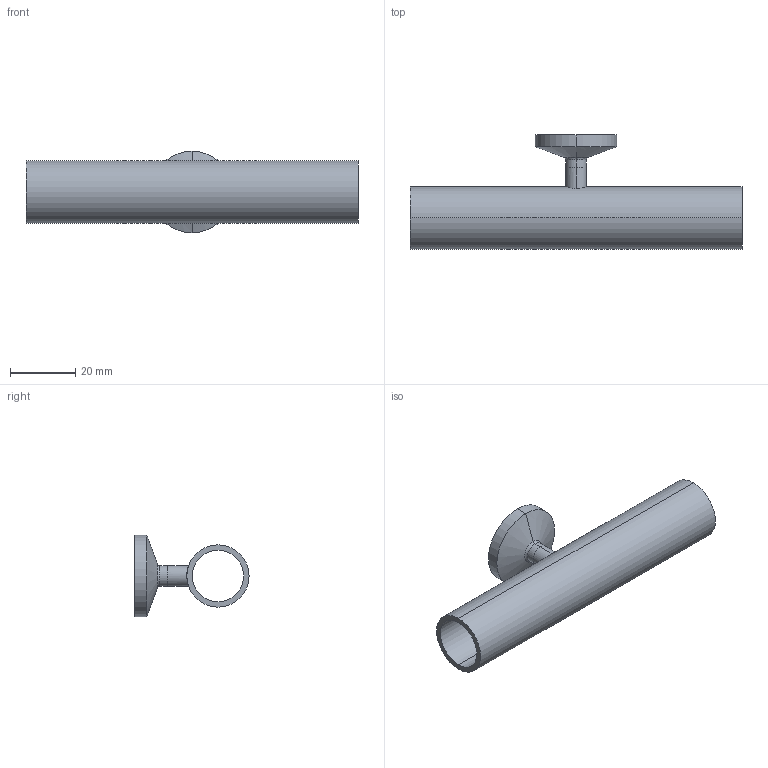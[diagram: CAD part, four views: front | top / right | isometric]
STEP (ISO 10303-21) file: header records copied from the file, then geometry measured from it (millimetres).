
FILE_DESCRIPTION (( 'STEP AP214' ), '1' );
FILE_NAME ('TE7RWWCS6L.75x.25-...STEP', '2016-05-23T10:45:56', ( 'eran' ), ( '' ), 'SwSTEP 2.0', 'SolidWorks 2016', '' );
FILE_SCHEMA (( 'AUTOMOTIVE_DESIGN' ));
Length unit declared in the file: millimetre
Products named in the file (1): TE7RWWCS6L.75x.25-..
Bounding box: 101.6 x 34.92 x 24.99 mm (x, y, z)
Volume: 11264 mm3; surface area: 13086.8 mm2
Topology: 2 solids, 2 shells, 34 faces, 70 edges, 42 vertices
Faces by surface type: cylinder 16, bspline 8, plane 6, cone 4
Entity records: 1159 total; most frequent: CARTESIAN_POINT 399, DIRECTION 158, ORIENTED_EDGE 140, EDGE_CURVE 70, AXIS2_PLACEMENT_3D 69, CIRCLE 42, VERTEX_POINT 42, EDGE_LOOP 42
